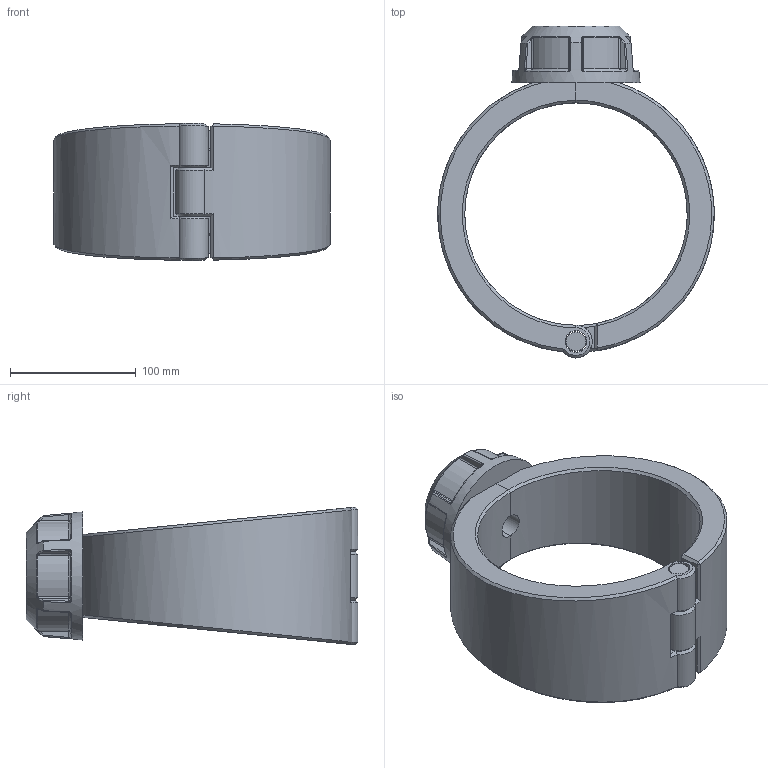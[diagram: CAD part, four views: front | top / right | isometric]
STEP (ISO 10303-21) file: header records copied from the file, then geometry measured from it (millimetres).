
FILE_DESCRIPTION(/* description */ ('Plassadle Threaded 177x1 1/4'''''),/* implementation_level */ '2;1');
FILE_NAME(/* name */ 'C:\Users\comp2\Dropbox\99-16-3568-Processing\Mechanical Fittings\16300\stp\163000177013.stp',/* time_stamp */ '2022-02-03T11:52:08+00:00',/* author */ ('comp2'),/* organization */ (''),/* preprocessor_version */ 'ST-DEVELOPER v17.2',/* originating_system */ 'Autodesk Inventor 2019',/* authorisation */ '');
FILE_SCHEMA (('AUTOMOTIVE_DESIGN { 1 0 10303 214 3 1 1 }'));
Length unit declared in the file: millimetre
Products named in the file (1): 163000177013
Bounding box: 219.98 x 263.99 x 109.6 mm (x, y, z)
Volume: 1367410 mm3; surface area: 181962.1 mm2
Topology: 4 solids, 4 shells, 203 faces, 486 edges, 293 vertices
Faces by surface type: bspline 58, plane 53, cylinder 47, torus 18, cone 15, sphere 12
Full cylindrical faces by diameter (mm): 15.3 x1, 17.3 x3, 19.476 x1, 33.109 x1, 38.952 x1, 58.428 x1
Entity records: 8259 total; most frequent: CARTESIAN_POINT 3912, ORIENTED_EDGE 972, DIRECTION 781, EDGE_CURVE 486, AXIS2_PLACEMENT_3D 330, VERTEX_POINT 293, EDGE_LOOP 213, FACE_OUTER_BOUND 203
